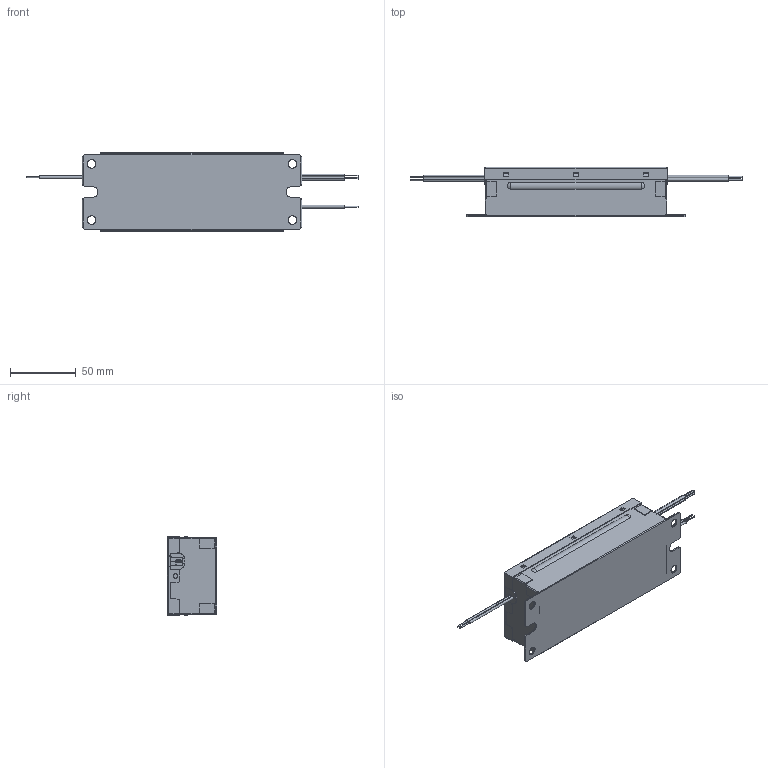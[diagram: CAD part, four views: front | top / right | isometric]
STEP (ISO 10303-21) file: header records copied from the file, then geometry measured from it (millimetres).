
FILE_DESCRIPTION((''),'2;1');
FILE_NAME('3D_USCI-055180GB_ASM','2023-05-30T17:16:34',('ALBERT.LI'),(''),'CREO PARAMETRIC BY PTC INC, 2020454','CREO PARAMETRIC BY PTC INC, 2020454','');
FILE_SCHEMA(('CONFIG_CONTROL_DESIGN'));
Length unit declared in the file: millimetre
Products named in the file (18): BASE_54; COVER_126; STRAIN-RELIEF_3230013200_2; STRAIN-RELIEF_3230013300_2; INPUT-WIRE_1316_18AWG_2_1; INPUT-WIRE_1316_18AWG_2_2; INPUT-WIRE_1316_18AWG_2_ASM; OUTPUT-WIRE_1316_18AWG_4_1; OUTPUT-WIRE_1316_18AWG_4_2; OUTPUT-WIRE_1316_18AWG_4_3; OUTPUT-WIRE_1316_18AWG_4_ASM; LABEL_6; DIMMING-WIRE_1316_18AWG_4_1; DIMMING-WIRE_1316_18AWG_4_2; DIMMING-WIRE_1316_18AWG_4_ASM; INSULATOT-TOP_1; ASSY-USCI-100140GB_ASM_35_ASM; 3D_USCI-055180GB_ASM
Assembly tree (18 placements, depth 4):
  3D_USCI-055180GB_ASM
    ASSY-USCI-100140GB_ASM_35_ASM
      BASE_54
      COVER_126
      STRAIN-RELIEF_3230013200_2
      STRAIN-RELIEF_3230013300_2  x2
      INPUT-WIRE_1316_18AWG_2_ASM
        INPUT-WIRE_1316_18AWG_2_1
        INPUT-WIRE_1316_18AWG_2_2
      OUTPUT-WIRE_1316_18AWG_4_ASM
        OUTPUT-WIRE_1316_18AWG_4_1
        OUTPUT-WIRE_1316_18AWG_4_2
        OUTPUT-WIRE_1316_18AWG_4_3
      LABEL_6
      DIMMING-WIRE_1316_18AWG_4_ASM
        DIMMING-WIRE_1316_18AWG_4_1
        DIMMING-WIRE_1316_18AWG_4_2
      INSULATOT-TOP_1
Bounding box: 253.4 x 37.58 x 60 mm (x, y, z)
Volume: 25694.5 mm3; surface area: 107561.4 mm2
Topology: 14 solids, 14 shells, 646 faces, 1645 edges, 1022 vertices
Faces by surface type: plane 458, cylinder 164, bspline 12, sphere 8, cone 4
Entity records: 18770 total; most frequent: CARTESIAN_POINT 3606, DIRECTION 3111, ORIENTED_EDGE 3054, EDGE_CURVE 1527, VECTOR 1157, LINE 1157, AXIS2_PLACEMENT_3D 977, VERTEX_POINT 950
